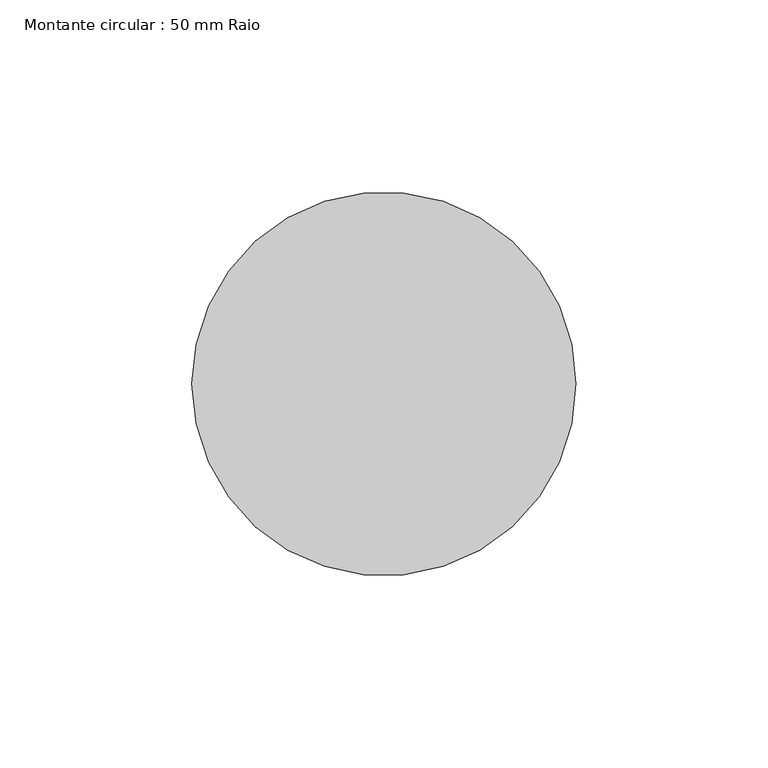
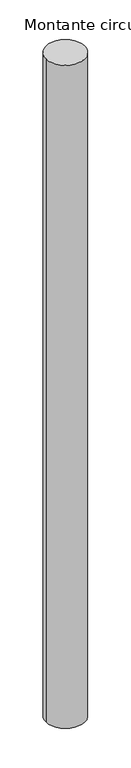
"""IFC4 building model written with IfcOpenShell, lengths in millimetres: member geometry, Montante circular : 50 mm Raio."""

from ifc_helpers import new_model, si_unit, point, frame, frame_2d, origin, place, context, project, spatial, circle_curve, trimmed, segment, composite_curve, outline, extrude, source, transform, mapped, element, save


def montante_circular_50_mm_raio_0fca540c(model_context):
    return source(origin(), model_context, "Body", "SweptSolid", [
        extrude(outline(composite_curve([segment(trimmed(circle_curve(frame_2d((-50.0, 0.0)), 50.0), [point((0.0, 0.0))], [point((-100.0, 0.0))], False, "CARTESIAN"), True, "CONTINUOUS"), segment(trimmed(circle_curve(frame_2d((-50.0, 0.0)), 50.0), [point((-100.0, 0.0))], [point((0.0, 0.0))], False, "CARTESIAN"), True, "CONTINUOUS")], self_intersect=False)), frame((0.0, 0.0, -1800.0), z_axis=(0.0, 0.0, 1.0), x_axis=(1.0, 0.0, 0.0)), (0.0, 0.0, 1.0), 1800.0),
    ])


if __name__ == "__main__":
    model = new_model("IFC4")
    model_context = context("Model", 3, world=origin())
    ifc_project = project(units=[si_unit("LENGTHUNIT", "METRE", prefix="MILLI")], contexts=[model_context])
    site = spatial("IfcSite", under=ifc_project)
    building = spatial("IfcBuilding", under=site)
    placement = place(None, origin())
    montante_circular_50_mm_raio_shape = montante_circular_50_mm_raio_0fca540c(model_context)
    element("IfcMember", 1, ObjectType="Montante circular : 50 mm Raio", at=placement, inside=building, context=model_context, shape_type="MappedRepresentation", body=[
        mapped(montante_circular_50_mm_raio_shape, transform((0.0, 0.0, 0.0), x_axis=(1.0, 0.0, 0.0), y_axis=(0.0, 1.0, 0.0), z_axis=(0.0, 0.0, 1.0))),
    ])
    save(model, "model.ifc")
